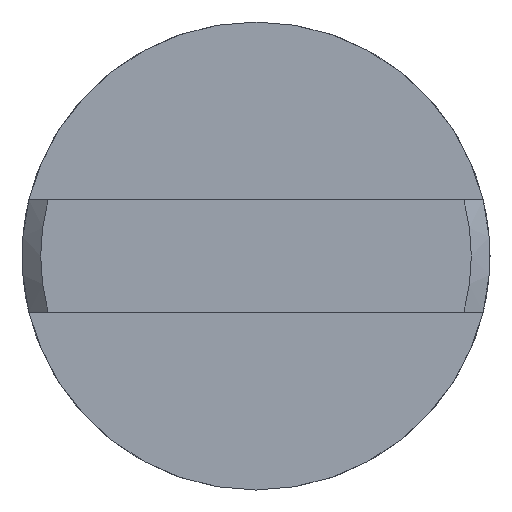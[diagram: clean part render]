
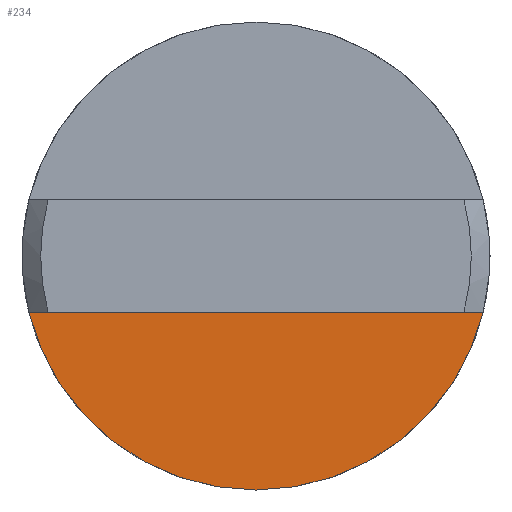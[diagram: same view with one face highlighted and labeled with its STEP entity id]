
A CAD part, left-side view. The second image highlights one B-rep face of the part: STEP entity #234.
In plain terms, the highlighted planar face has unit normal (-1, 0, 0).
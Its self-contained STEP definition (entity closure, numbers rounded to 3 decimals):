
#33 = CARTESIAN_POINT ( 'NONE',  ( -2.75, 0., 0. ) ) ;
#37 = DIRECTION ( 'NONE',  ( 0., 0., 1. ) ) ;
#39 = CARTESIAN_POINT ( 'NONE',  ( -2.75, -2.427, -0.6 ) ) ;
#83 = AXIS2_PLACEMENT_3D ( 'NONE', #252, #523, #724 ) ;
#155 = CARTESIAN_POINT ( 'NONE',  ( -2.75, 0., 0. ) ) ;
#163 = VECTOR ( 'NONE', #554, 1000. ) ;
#167 = DIRECTION ( 'NONE',  ( -1., 0., 0. ) ) ;
#175 = EDGE_LOOP ( 'NONE', ( #443, #865, #514 ) ) ;
#234 = ADVANCED_FACE ( 'NONE', ( #701 ), #563, .T. ) ;
#252 = CARTESIAN_POINT ( 'NONE',  ( -2.75, 0., 0. ) ) ;
#289 = VERTEX_POINT ( 'NONE', #39 ) ;
#330 = AXIS2_PLACEMENT_3D ( 'NONE', #33, #167, #421 ) ;
#367 = VERTEX_POINT ( 'NONE', #664 ) ;
#375 = DIRECTION ( 'NONE',  ( -1., 0., 0. ) ) ;
#420 = CARTESIAN_POINT ( 'NONE',  ( -2.75, 2.427, -0.6 ) ) ;
#421 = DIRECTION ( 'NONE',  ( 0., 0., 1. ) ) ;
#433 = CIRCLE ( 'NONE', #709, 2.5 ) ;
#443 = ORIENTED_EDGE ( 'NONE', *, *, #659, .T. ) ;
#514 = ORIENTED_EDGE ( 'NONE', *, *, #675, .F. ) ;
#523 = DIRECTION ( 'NONE',  ( -1., 0., 0. ) ) ;
#548 = CARTESIAN_POINT ( 'NONE',  ( -2.75, 3., -0.6 ) ) ;
#554 = DIRECTION ( 'NONE',  ( 0., -1., 0. ) ) ;
#563 = PLANE ( 'NONE',  #330 ) ;
#659 = EDGE_CURVE ( 'NONE', #711, #367, #433, .T. ) ;
#664 = CARTESIAN_POINT ( 'NONE',  ( -2.75, 0., -2.5 ) ) ;
#675 = EDGE_CURVE ( 'NONE', #711, #289, #774, .T. ) ;
#701 = FACE_OUTER_BOUND ( 'NONE', #175, .T. ) ;
#709 = AXIS2_PLACEMENT_3D ( 'NONE', #155, #375, #37 ) ;
#711 = VERTEX_POINT ( 'NONE', #420 ) ;
#724 = DIRECTION ( 'NONE',  ( 0., 0., 1. ) ) ;
#759 = CIRCLE ( 'NONE', #83, 2.5 ) ;
#774 = LINE ( 'NONE', #548, #163 ) ;
#794 = EDGE_CURVE ( 'NONE', #367, #289, #759, .T. ) ;
#865 = ORIENTED_EDGE ( 'NONE', *, *, #794, .T. ) ;
